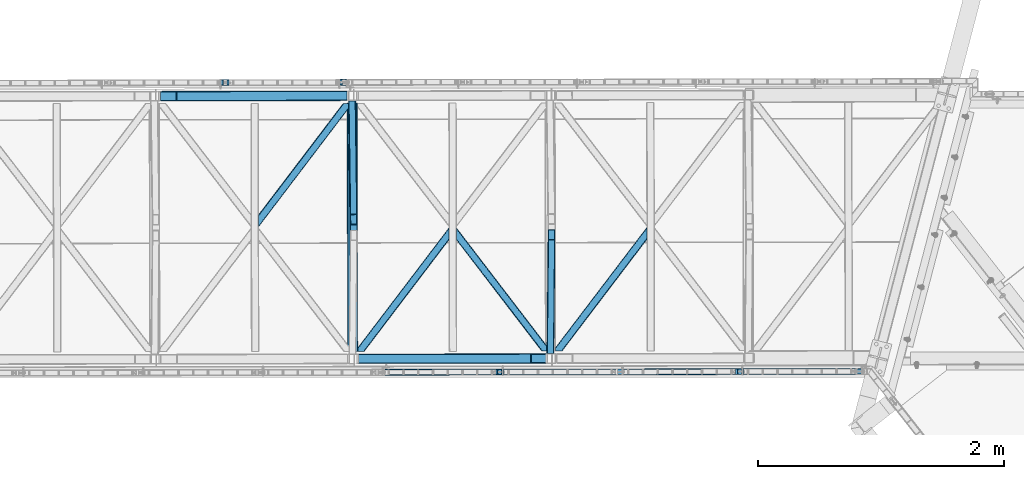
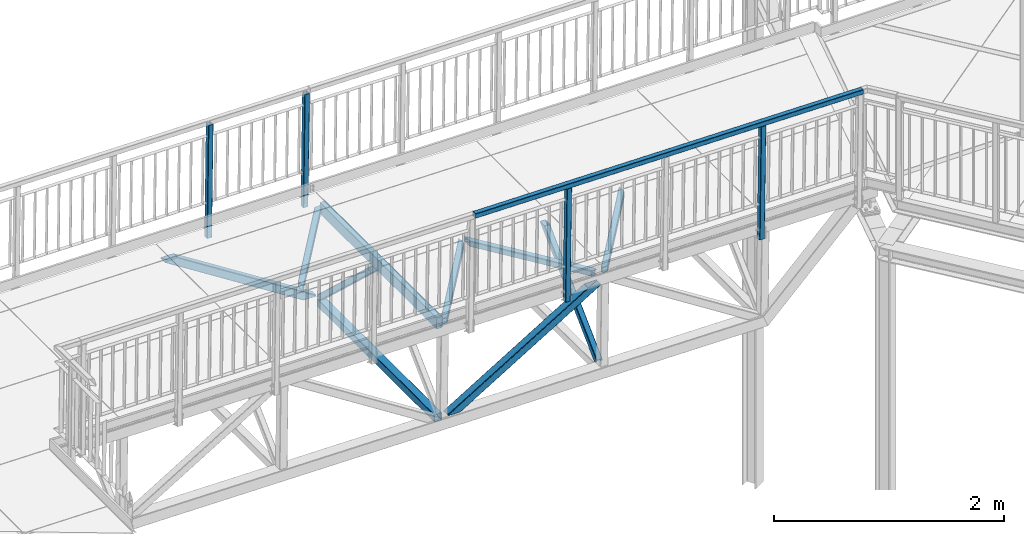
# One storey, part 60 of 169: 15 discrete accessories, 4 elements without a shape of their own.
"""IFC2X3 building model written with IfcOpenShell, lengths in millimetres."""

from ifc_helpers import new_model, si_unit, frame, origin_with_axes, origin_2d_with_axis, place, context, subcontext, project, spatial, rectangle, hollow_rectangle, extrude, boolean, clip, halfspace, material, type_object, element, aggregate, save


model = new_model("IFC2X3")

# Units and contexts
model_context = context("Model", 3, precision=1e-05, world=origin_with_axes())
body_context = subcontext(model_context, "Body", "Model", "MODEL_VIEW")
ifc_project = project(units=[si_unit("LENGTHUNIT", "METRE", prefix="MILLI"), si_unit("AREAUNIT", "SQUARE_METRE"), si_unit("VOLUMEUNIT", "CUBIC_METRE"), si_unit("MASSUNIT", "GRAM", prefix="KILO"), si_unit("TIMEUNIT", "SECOND"), si_unit("PLANEANGLEUNIT", "RADIAN"), si_unit("SOLIDANGLEUNIT", "STERADIAN"), si_unit("THERMODYNAMICTEMPERATUREUNIT", "DEGREE_CELSIUS"), si_unit("LUMINOUSINTENSITYUNIT", "LUMEN")], contexts=[model_context])

# Site, building, storey
site_placement = place(None, origin_with_axes())
site = spatial("IfcSite", under=ifc_project, at=site_placement, Name="Undefined", CompositionType="ELEMENT")
building_placement = place(site_placement, origin_with_axes())
building = spatial("IfcBuilding", under=site, at=building_placement, Name="Undefined", CompositionType="ELEMENT")
storey_placement = place(building_placement, origin_with_axes())
storey = spatial("IfcBuildingStorey", under=building, at=storey_placement, Name="Undefined", CompositionType="ELEMENT", Elevation=0.0)

# Assembly, discrete accessories
assembly_1_placement = place(storey_placement, origin_with_axes())
assembly_1 = element("IfcElementAssembly", 1, at=assembly_1_placement, inside=storey, Name="Steel Assembly", AssemblyPlace="NOTDEFINED", PredefinedType="RIGID_FRAME")
ifc_material_1 = material(Name="STEEL/S355")
discrete_accessory_type_1 = type_object("IfcDiscreteAccessoryType", Name="BEAM")
discrete_accessory_1_placement = place(assembly_1_placement, frame((14159.4514257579, 131.419385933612, 12774.1655168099), z_axis=(-0.516782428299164, -0.000963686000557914, 0.856116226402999), x_axis=(0.856114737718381, 0.00159654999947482, 0.516783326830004)))
discrete_accessory_1 = element("IfcDiscreteAccessory", 2, at=discrete_accessory_1_placement, type_object=discrete_accessory_type_1, material=ifc_material_1, Name="BEAM", ObjectType="K80/4", context=body_context, shape_type="CSG", body=[
    boolean("DIFFERENCE", boolean("DIFFERENCE", boolean("DIFFERENCE", boolean("DIFFERENCE", extrude(hollow_rectangle(XDim=80.0, YDim=80.0, WallThickness=4.0, InnerFilletRadius=4.0, OuterFilletRadius=8.0, at=origin_2d_with_axis()), frame((1895.28365458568, 2.8368149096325e-14, 0.0), z_axis=(-1.0, -3.46944695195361e-18, -1.38777878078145e-17), x_axis=(1.73472347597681e-18, -1.0, 0.0)), (0.0, 0.0, 1.0), 1895.28), extrude(rectangle(XDim=122.0, YDim=122.0, at=origin_2d_with_axis()), frame((3629.06675415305, -2.8717456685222e-06, -1076.88375378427), z_axis=(-0.849477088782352, -3.93457825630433e-11, 0.527625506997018), x_axis=(-0.527625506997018, 2.00772915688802e-10, -0.849477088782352)), (0.0, 0.0, 1.0), 4082.0)), extrude(rectangle(XDim=82.0, YDim=82.0, at=origin_2d_with_axis()), frame((2974.2784408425, -3.47822028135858e-07, 1737.18165073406), z_axis=(-0.527625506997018, 2.00772915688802e-10, -0.849477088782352), x_axis=(1.73472347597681e-18, -1.0, 0.0)), (0.0, 0.0, 1.0), 4090.0)), extrude(rectangle(XDim=82.0, YDim=82.0, at=origin_2d_with_axis()), frame((1095.8775547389, -6.81045717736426e-07, 1764.36290780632), z_axis=(-0.527625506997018, 2.00772915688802e-10, -0.849477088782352), x_axis=(1.73472347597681e-18, -1.0, 0.0)), (0.0, 0.0, 1.0), 4154.0)), extrude(rectangle(XDim=122.0, YDim=122.0, at=origin_2d_with_axis()), frame((1733.78279680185, -2.80958658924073e-06, -1076.88356672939), z_axis=(-0.849477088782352, -3.93457825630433e-11, 0.527625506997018), x_axis=(-0.527625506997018, 2.00772915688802e-10, -0.849477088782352)), (0.0, 0.0, 1.0), 4082.0)),
])
discrete_accessory_2_placement = place(assembly_1_placement, frame((12558.3066592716, 2268.43735667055, 13794.5527999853), z_axis=(0.538381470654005, 0.00100403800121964, 0.842700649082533), x_axis=(0.842699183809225, 0.00157148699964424, -0.538382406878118)))
discrete_accessory_2 = element("IfcDiscreteAccessory", 3, at=discrete_accessory_2_placement, type_object=discrete_accessory_type_1, material=ifc_material_1, Name="BEAM", ObjectType="K80/4", context=body_context, shape_type="CSG", body=[
    boolean("DIFFERENCE", boolean("DIFFERENCE", boolean("DIFFERENCE", boolean("DIFFERENCE", extrude(hollow_rectangle(XDim=80.0, YDim=80.0, WallThickness=4.0, InnerFilletRadius=4.0, OuterFilletRadius=8.0, at=origin_2d_with_axis()), frame((1895.28365458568, 2.8368149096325e-14, 0.0), z_axis=(-1.0, -3.46944695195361e-18, -1.38777878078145e-17), x_axis=(1.73472347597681e-18, -1.0, 0.0)), (0.0, 0.0, 1.0), 1895.28), extrude(rectangle(XDim=122.0, YDim=122.0, at=origin_2d_with_axis()), frame((1733.7826800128, -0.000115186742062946, 1076.8837541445), z_axis=(-0.849477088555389, 2.61340201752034e-10, -0.527625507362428), x_axis=(-0.527625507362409, 4.58604519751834e-10, 0.849477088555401)), (0.0, 0.0, 1.0), 4082.0)), extrude(rectangle(XDim=82.0, YDim=82.0, at=origin_2d_with_axis()), frame((-1087.43611182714, 3.77681572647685e-07, 1750.77218633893), z_axis=(0.527625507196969, -3.47074672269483e-10, -0.849477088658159), x_axis=(1.73472347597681e-18, -1.0, 0.0)), (0.0, 0.0, 1.0), 4122.0)), extrude(rectangle(XDim=82.0, YDim=82.0, at=origin_2d_with_axis()), frame((807.847426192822, 1.91307743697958e-07, 1750.77237320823), z_axis=(0.527625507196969, -3.47074672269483e-10, -0.849477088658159), x_axis=(1.73472347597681e-18, -1.0, 0.0)), (0.0, 0.0, 1.0), 4122.0)), extrude(rectangle(XDim=122.0, YDim=122.0, at=origin_2d_with_axis()), frame((3629.23882569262, -3.99359470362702e-06, 1076.99089160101), z_axis=(-0.849477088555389, 2.61340201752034e-10, -0.527625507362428), x_axis=(0.527625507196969, -3.47074672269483e-10, -0.849477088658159)), (0.0, 0.0, 1.0), 4082.41)),
])
aggregate(assembly_1, [discrete_accessory_1, discrete_accessory_2])

assembly_2_placement = place(storey_placement, origin_with_axes())
assembly_2 = element("IfcElementAssembly", 4, at=assembly_2_placement, inside=storey, Name="Steel Assembly", AssemblyPlace="NOTDEFINED", PredefinedType="RIGID_FRAME")
discrete_accessory_3_placement = place(assembly_2_placement, frame((15782.0316942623, 134.445406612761, 13753.6165102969), z_axis=(0.796064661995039, -0.605127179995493, -0.0101069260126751), x_axis=(0.605078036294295, 0.796128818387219, -0.00771197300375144)))
discrete_accessory_3 = element("IfcDiscreteAccessory", 5, at=discrete_accessory_3_placement, type_object=discrete_accessory_type_1, material=ifc_material_1, Name="BEAM", ObjectType="K60/4", context=body_context, shape_type="CSG", body=[
    boolean("DIFFERENCE", boolean("DIFFERENCE", boolean("DIFFERENCE", extrude(hollow_rectangle(XDim=60.0, YDim=60.0, WallThickness=4.0, InnerFilletRadius=4.0, OuterFilletRadius=8.0, at=origin_2d_with_axis()), frame((1317.88045895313, 1.14307908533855e-15, -1.87685778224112e-12), z_axis=(-1.0, -3.46944695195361e-18, -1.38777878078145e-17), x_axis=(1.73472347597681e-18, -1.0, 0.0)), (0.0, 0.0, 1.0), 1317.88), extrude(rectangle(XDim=122.0, YDim=122.0, at=origin_2d_with_axis()), frame((1232.02617983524, 0.000108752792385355, 1614.64314702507), z_axis=(-0.606610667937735, 2.83045446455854e-10, -0.794999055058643), x_axis=(1.73472347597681e-18, -1.0, 0.0)), (0.0, 0.0, 1.0), 4062.0)), extrude(rectangle(XDim=62.0, YDim=122.0, at=origin_2d_with_axis()), frame((1638.49296551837, -1.93246750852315e-06, -1250.22451956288), z_axis=(-0.794999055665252, -4.2238609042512e-08, 0.606610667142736), x_axis=(0.606610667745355, -4.65838344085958e-10, 0.794999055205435)), (0.0, 0.0, 1.0), 4122.0)), halfspace(frame((513.848229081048, 1.26783561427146e-08, 582.760696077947), z_axis=(-0.606610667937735, 2.83045446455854e-10, -0.794999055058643), x_axis=(1.73472347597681e-18, -1.0, 0.0)), True)),
])
discrete_accessory_4_placement = place(assembly_2_placement, frame((14975.1307134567, 1187.9424899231, 13763.8505600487), z_axis=(-0.793802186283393, -0.608092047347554, 0.0101069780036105), x_axis=(0.608043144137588, -0.793866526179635, -0.00771190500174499)))
discrete_accessory_4 = element("IfcDiscreteAccessory", 6, at=discrete_accessory_4_placement, type_object=discrete_accessory_type_1, material=ifc_material_1, Name="BEAM", ObjectType="K60/4", context=body_context, shape_type="CSG", body=[
    boolean("DIFFERENCE", boolean("DIFFERENCE", boolean("DIFFERENCE", extrude(hollow_rectangle(XDim=60.0, YDim=60.0, WallThickness=4.0, InnerFilletRadius=4.0, OuterFilletRadius=8.0, at=origin_2d_with_axis()), frame((1327.04560324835, -1.81783837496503e-12, 1.8913063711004e-12), z_axis=(-1.0, -3.46944695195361e-18, -1.38777878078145e-17), x_axis=(1.73472347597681e-18, -1.0, 0.0)), (0.0, 0.0, 1.0), 1317.77), extrude(rectangle(XDim=122.0, YDim=122.0, at=origin_2d_with_axis()), frame((2559.07206009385, 0.000108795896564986, -1614.6431455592), z_axis=(-0.606610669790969, 1.9093520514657e-10, 0.794999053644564), x_axis=(1.73472347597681e-18, -1.0, 0.0)), (0.0, 0.0, 1.0), 4062.0)), extrude(rectangle(XDim=62.0, YDim=122.0, at=origin_2d_with_axis()), frame((-311.447359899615, 7.92361939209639e-07, -1250.22452235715), z_axis=(0.794999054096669, -5.08714775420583e-10, 0.606610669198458), x_axis=(0.606610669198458, -3.85695368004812e-10, -0.79499905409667)), (0.0, 0.0, 1.0), 4122.0)), halfspace(frame((813.19737539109, -1.17615854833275e-08, 582.760697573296), z_axis=(0.606610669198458, -3.85695368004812e-10, -0.79499905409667), x_axis=(0.0, 1.0, 0.0)), True)),
])
discrete_accessory_5_placement = place(assembly_2_placement, frame((14172.1645658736, 131.443242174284, 13774.0847013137), z_axis=(0.796064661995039, -0.605127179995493, -0.0101069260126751), x_axis=(0.605078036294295, 0.796128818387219, -0.00771197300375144)))
discrete_accessory_5 = element("IfcDiscreteAccessory", 7, at=discrete_accessory_5_placement, type_object=discrete_accessory_type_1, material=ifc_material_1, Name="BEAM", ObjectType="K60/4", context=body_context, shape_type="CSG", body=[
    boolean("DIFFERENCE", boolean("DIFFERENCE", boolean("DIFFERENCE", extrude(hollow_rectangle(XDim=60.0, YDim=60.0, WallThickness=4.0, InnerFilletRadius=4.0, OuterFilletRadius=8.0, at=origin_2d_with_axis()), frame((1317.88045895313, 1.14307908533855e-15, -1.87685778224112e-12), z_axis=(-1.0, -3.46944695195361e-18, -1.38777878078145e-17), x_axis=(1.73472347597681e-18, -1.0, 0.0)), (0.0, 0.0, 1.0), 1317.88), extrude(rectangle(XDim=122.0, YDim=122.0, at=origin_2d_with_axis()), frame((1232.02617983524, 0.000108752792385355, 1614.64314702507), z_axis=(-0.606610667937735, 2.83045446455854e-10, -0.794999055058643), x_axis=(1.73472347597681e-18, -1.0, 0.0)), (0.0, 0.0, 1.0), 4062.0)), extrude(rectangle(XDim=62.0, YDim=122.0, at=origin_2d_with_axis()), frame((1638.49296551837, -1.93246750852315e-06, -1250.22451956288), z_axis=(-0.794999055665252, -4.2238609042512e-08, 0.606610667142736), x_axis=(0.606610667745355, -4.65838344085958e-10, 0.794999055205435)), (0.0, 0.0, 1.0), 4122.0)), halfspace(frame((513.848229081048, 1.26783561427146e-08, 582.760696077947), z_axis=(-0.606610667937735, 2.83045446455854e-10, -0.794999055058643), x_axis=(1.73472347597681e-18, -1.0, 0.0)), True)),
])
discrete_accessory_6_placement = place(assembly_2_placement, frame((13365.2076395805, 1214.94027332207, 13784.3187498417), z_axis=(0.796064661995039, -0.605127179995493, -0.0101069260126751), x_axis=(0.605078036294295, 0.796128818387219, -0.00771197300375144)))
discrete_accessory_6 = element("IfcDiscreteAccessory", 8, at=discrete_accessory_6_placement, type_object=discrete_accessory_type_1, material=ifc_material_1, Name="BEAM", ObjectType="K60/4", context=body_context, shape_type="CSG", body=[
    boolean("DIFFERENCE", boolean("DIFFERENCE", boolean("DIFFERENCE", extrude(hollow_rectangle(XDim=60.0, YDim=60.0, WallThickness=4.0, InnerFilletRadius=4.0, OuterFilletRadius=8.0, at=origin_2d_with_axis()), frame((1327.04560324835, -1.81783837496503e-12, 1.8913063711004e-12), z_axis=(-1.0, -3.46944695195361e-18, -1.38777878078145e-17), x_axis=(1.73472347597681e-18, -1.0, 0.0)), (0.0, 0.0, 1.0), 1317.88), extrude(rectangle(XDim=122.0, YDim=122.0, at=origin_2d_with_axis()), frame((2559.07166903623, 0.000108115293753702, 1614.64301073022), z_axis=(-0.606610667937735, 2.83045446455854e-10, -0.794999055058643), x_axis=(0.0, 1.0, 0.0)), (0.0, 0.0, 1.0), 4062.0)), extrude(rectangle(XDim=62.0, YDim=122.0, at=origin_2d_with_axis()), frame((2965.5386644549, -2.59535426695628e-06, -1250.22459037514), z_axis=(-0.794999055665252, -4.2238609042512e-08, 0.606610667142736), x_axis=(0.606610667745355, -4.65838344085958e-10, 0.794999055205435)), (0.0, 0.0, 1.0), 4122.0)), halfspace(frame((-776.800733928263, -1.5232217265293e-08, 630.460639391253), z_axis=(0.606610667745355, -4.65838344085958e-10, 0.794999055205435), x_axis=(0.0, 1.0, 0.0)), True)),
])
discrete_accessory_7_placement = place(assembly_2_placement, frame((15769.3185546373, 134.421655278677, 12753.6973257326), z_axis=(-0.0105615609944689, 0.682786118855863, -0.730541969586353), x_axis=(0.00731813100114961, 0.730615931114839, 0.682749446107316)))
discrete_accessory_7 = element("IfcDiscreteAccessory", 9, at=discrete_accessory_7_placement, type_object=discrete_accessory_type_1, material=ifc_material_1, Name="BEAM", ObjectType="K60/4", context=body_context, shape_type="CSG", body=[
    boolean("DIFFERENCE", boolean("DIFFERENCE", boolean("DIFFERENCE", boolean("DIFFERENCE", extrude(hollow_rectangle(XDim=60.0, YDim=60.0, WallThickness=4.0, InnerFilletRadius=4.0, OuterFilletRadius=8.0, at=origin_2d_with_axis()), frame((1409.62306429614, 2.44530622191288e-15, -3.48147920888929e-12), z_axis=(-1.0, -3.46944695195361e-18, -1.38777878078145e-17), x_axis=(1.73472347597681e-18, -1.0, 0.0)), (0.0, 0.0, 1.0), 1409.62), extrude(rectangle(XDim=122.0, YDim=122.0, at=origin_2d_with_axis()), frame((-3.0605420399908e-06, 2029.999999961, -0.000155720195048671), z_axis=(1.73472347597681e-18, -1.0, 0.0), x_axis=(-0.682804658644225, 7.91412114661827e-10, 0.730600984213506)), (0.0, 0.0, 1.0), 4060.0)), extrude(rectangle(XDim=82.0, YDim=82.0, at=origin_2d_with_axis()), frame((1491.15653144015, 6.98136768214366e-07, 1393.60423636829), z_axis=(-0.730600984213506, -8.41296776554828e-11, -0.682804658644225), x_axis=(0.0, 1.0, 0.0)), (0.0, 0.0, 1.0), 4082.0)), extrude(rectangle(XDim=82.0, YDim=82.0, at=origin_2d_with_axis()), frame((1393.60423162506, -1.60659598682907e-06, -1491.15668038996), z_axis=(-0.682804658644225, 7.91412114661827e-10, 0.730600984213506), x_axis=(-0.730600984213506, -8.41296776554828e-11, -0.682804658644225)), (0.0, 0.0, 1.0), 4082.0)), halfspace(frame((2154.18041553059, 4.7799403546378e-08, 726.64071778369), z_axis=(-0.682804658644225, 7.91412114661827e-10, 0.730600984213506), x_axis=(1.73472347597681e-18, -1.0, 0.0)), True)),
])
discrete_accessory_8_placement = place(assembly_2_placement, frame((14170.1691768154, 1201.44138166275, 13774.0846550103), z_axis=(-0.00801490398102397, -0.682820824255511, -0.730541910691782), x_axis=(-0.0100430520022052, 0.730583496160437, -0.682749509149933)))
discrete_accessory_8 = element("IfcDiscreteAccessory", 10, at=discrete_accessory_8_placement, type_object=discrete_accessory_type_1, material=ifc_material_1, Name="BEAM", ObjectType="K60/4", context=body_context, shape_type="CSG", body=[
    boolean("DIFFERENCE", boolean("DIFFERENCE", boolean("DIFFERENCE", boolean("DIFFERENCE", extrude(hollow_rectangle(XDim=60.0, YDim=60.0, WallThickness=4.0, InnerFilletRadius=4.0, OuterFilletRadius=8.0, at=origin_2d_with_axis()), frame((1464.54771171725, -2.54058529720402e-15, 1.73769067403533e-12), z_axis=(-1.0, -3.46944695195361e-18, -1.38777878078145e-17), x_axis=(1.73472347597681e-18, -1.0, 0.0)), (0.0, 0.0, 1.0), 1409.7), extrude(rectangle(XDim=122.0, YDim=122.0, at=origin_2d_with_axis()), frame((1464.54763377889, 2029.99999998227, -7.71977473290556e-05), z_axis=(1.73472347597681e-18, -1.0, 0.0), x_axis=(0.682804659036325, -5.74226128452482e-10, 0.730600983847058)), (0.0, 0.0, 1.0), 4060.0)), extrude(rectangle(XDim=82.0, YDim=82.0, at=origin_2d_with_axis()), frame((2955.70431769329, 3.22820304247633e-06, -1393.60430822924), z_axis=(-0.730600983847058, -6.40306815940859e-10, 0.682804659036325), x_axis=(0.0, 1.0, 0.0)), (0.0, 0.0, 1.0), 4082.0)), extrude(rectangle(XDim=82.0, YDim=82.0, at=origin_2d_with_axis()), frame((70.9434023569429, 1.26172341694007e-06, -1491.15660917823), z_axis=(0.682804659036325, -5.74226128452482e-10, 0.730600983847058), x_axis=(-0.730600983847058, -6.40306815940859e-10, 0.682804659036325)), (0.0, 0.0, 1.0), 4082.0)), halfspace(frame((-689.632704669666, -3.43825377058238e-08, 726.640717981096), z_axis=(0.682804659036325, -5.74226128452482e-10, 0.730600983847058), x_axis=(0.0, 1.0, 0.0)), True)),
])
discrete_accessory_9_placement = place(assembly_2_placement, frame((14159.4514262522, 131.419490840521, 12774.1655167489), z_axis=(0.012713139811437, 2.3750999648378e-05, 0.999919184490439), x_axis=(-0.0018648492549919, 0.999998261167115, -4.2996762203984e-08)))
discrete_accessory_9 = element("IfcDiscreteAccessory", 11, at=discrete_accessory_9_placement, type_object=discrete_accessory_type_1, material=ifc_material_1, Name="BEAM", ObjectType="K80/4", context=body_context, shape_type="Clipping", body=[
    clip(clip(extrude(hollow_rectangle(XDim=80.0, YDim=80.0, WallThickness=4.0, InnerFilletRadius=4.0, OuterFilletRadius=8.0, at=origin_2d_with_axis()), frame((2079.99999999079, 5.70364343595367e-14, -1.83064995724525e-18), z_axis=(-1.0, -3.46944695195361e-18, -1.38777878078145e-17), x_axis=(1.73472347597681e-18, -1.0, 0.0)), (0.0, 0.0, 1.0), 2020.0), halfspace(frame((2079.99999986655, -1.53990526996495e-08, 999.999999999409), z_axis=(-1.0, -3.46944695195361e-18, -1.38777878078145e-17), x_axis=(1.73472347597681e-18, -1.0, 0.0)), True)), halfspace(frame((59.9998947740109, 1.52502366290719e-08, 999.99999999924), z_axis=(1.0, 0.0, 0.0), x_axis=(0.0, 1.0, 0.0)), True)),
])
discrete_accessory_10_placement = place(assembly_2_placement, frame((14172.1645658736, 131.443242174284, 13774.0847013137), z_axis=(0.012713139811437, 2.3750999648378e-05, 0.999919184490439), x_axis=(-0.0018648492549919, 0.999998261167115, -4.2996762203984e-08)))
discrete_accessory_10 = element("IfcDiscreteAccessory", 12, at=discrete_accessory_10_placement, type_object=discrete_accessory_type_1, material=ifc_material_1, Name="BEAM", ObjectType="RHS120*60*3", context=body_context, shape_type="Clipping", body=[
    clip(clip(extrude(hollow_rectangle(XDim=60.0, YDim=120.0, WallThickness=3.0, InnerFilletRadius=3.0, OuterFilletRadius=6.0, at=origin_2d_with_axis()), frame((2079.99988425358, -2.58114747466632e-16, -1.81898421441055e-12), z_axis=(-1.0, -3.46944695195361e-18, -1.38777878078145e-17), x_axis=(1.73472347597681e-18, -1.0, 0.0)), (0.0, 0.0, 1.0), 2020.0), halfspace(frame((2079.99984112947, 4.96547727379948e-08, 999.999997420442), z_axis=(-1.0, -3.46944695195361e-18, -1.38777878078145e-17), x_axis=(1.73472347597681e-18, -1.0, 0.0)), True)), halfspace(frame((59.9998947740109, 1.52502366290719e-08, 999.99999999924), z_axis=(1.0, 0.0, 0.0), x_axis=(0.0, 1.0, 0.0)), True)),
])
aggregate(assembly_2, [discrete_accessory_3, discrete_accessory_4, discrete_accessory_5, discrete_accessory_6, discrete_accessory_7, discrete_accessory_8, discrete_accessory_9, discrete_accessory_10])

assembly_3_placement = place(storey_placement, origin_with_axes())
assembly_3 = element("IfcElementAssembly", 13, at=assembly_3_placement, inside=storey, Name="Steel Assembly", AssemblyPlace="NOTDEFINED", PredefinedType="RIGID_FRAME")
ifc_material_2 = material(Name="STEEL/S235")
discrete_accessory_type_2 = type_object("IfcDiscreteAccessoryType", Name="PORĘCZ")
discrete_accessory_11_placement = place(assembly_3_placement, frame((14456.9914694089, 21.9741524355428, 14930.5598281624), z_axis=(-0.0018648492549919, 0.999998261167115, -4.2996762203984e-08), x_axis=(0.9999174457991, 0.00186469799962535, -0.0127131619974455)))
discrete_accessory_11 = element("IfcDiscreteAccessory", 14, at=discrete_accessory_11_placement, type_object=discrete_accessory_type_2, material=ifc_material_2, Name="PORĘCZ", ObjectType="SHS50*3", context=body_context, shape_type="Clipping", body=[
    clip(clip(extrude(hollow_rectangle(XDim=50.0, YDim=50.0, WallThickness=3.0, InnerFilletRadius=3.0, OuterFilletRadius=6.0, at=origin_2d_with_axis()), frame((3859.79401585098, 6.69567529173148e-15, 5.34777968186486e-15), z_axis=(-1.0, -3.46944695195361e-18, -1.38777878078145e-17), x_axis=(1.73472347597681e-18, -1.0, 0.0)), (0.0, 0.0, 1.0), 3894.79), halfspace(frame((3859.79401610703, -8.69476934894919e-10, 1000.00000000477), z_axis=(-1.0, -3.46944695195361e-18, -1.38777878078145e-17), x_axis=(1.73472347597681e-18, -1.0, 0.0)), True)), halfspace(frame((-35.0000007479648, 1.38243194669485e-10, 1000.00000000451), z_axis=(1.0, 0.0, 0.0), x_axis=(0.0, 1.0, 0.0)), True)),
])
discrete_accessory_type_3 = type_object("IfcDiscreteAccessoryType", Name="STANCHION")
discrete_accessory_12_placement = place(assembly_3_placement, frame((17302.770910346, 27.2810626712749, 13794.2890818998), z_axis=(0.00186484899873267, -0.999998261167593, 4.28757666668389e-08), x_axis=(0.012713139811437, 2.3750999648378e-05, 0.999919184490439)))
discrete_accessory_12 = element("IfcDiscreteAccessory", 15, at=discrete_accessory_12_placement, type_object=discrete_accessory_type_3, material=ifc_material_2, Name="STANCHION", ObjectType="SHS50*3", context=body_context, shape_type="Clipping", body=[
    clip(clip(extrude(hollow_rectangle(XDim=50.0, YDim=50.0, WallThickness=3.0, InnerFilletRadius=3.0, OuterFilletRadius=6.0, at=origin_2d_with_axis()), frame((1074.99999999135, -5.68489533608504e-14, -9.13224357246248e-13), z_axis=(-1.0, -3.46944695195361e-18, -1.38777878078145e-17), x_axis=(1.73472347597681e-18, -1.0, 0.0)), (0.0, 0.0, 1.0), 1195.0), halfspace(frame((1075.00000000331, 25.0000002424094, 2.62741739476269e-09), z_axis=(1.0, 0.0, 0.0), x_axis=(0.0, 0.0, 1.0)), False)), halfspace(frame((-120.000000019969, -1025.00000000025, -5.14306819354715e-10), z_axis=(1.0, 0.0, 0.0), x_axis=(0.0, 0.0, 1.0)), True)),
])
discrete_accessory_13_placement = place(assembly_3_placement, frame((15352.9318910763, 23.644901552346, 13819.0797477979), z_axis=(0.00186484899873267, -0.999998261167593, 4.28757666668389e-08), x_axis=(0.012713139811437, 2.3750999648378e-05, 0.999919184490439)))
discrete_accessory_13 = element("IfcDiscreteAccessory", 16, at=discrete_accessory_13_placement, type_object=discrete_accessory_type_3, material=ifc_material_2, Name="STANCHION", ObjectType="SHS50*3", context=body_context, shape_type="Clipping", body=[
    clip(clip(extrude(hollow_rectangle(XDim=50.0, YDim=50.0, WallThickness=3.0, InnerFilletRadius=3.0, OuterFilletRadius=6.0, at=origin_2d_with_axis()), frame((1074.99999999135, -5.68489533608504e-14, -9.13224357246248e-13), z_axis=(-1.0, -3.46944695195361e-18, -1.38777878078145e-17), x_axis=(1.73472347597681e-18, -1.0, 0.0)), (0.0, 0.0, 1.0), 1195.0), halfspace(frame((1075.00000000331, 25.0000002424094, 2.62741739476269e-09), z_axis=(1.0, 0.0, 0.0), x_axis=(0.0, 0.0, 1.0)), False)), halfspace(frame((-120.000000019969, -1025.00000000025, -5.14306819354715e-10), z_axis=(1.0, 0.0, 0.0), x_axis=(0.0, 0.0, 1.0)), True)),
])
aggregate(assembly_3, [discrete_accessory_11, discrete_accessory_12, discrete_accessory_13])

assembly_4_placement = place(storey_placement, origin_with_axes())
assembly_4 = element("IfcElementAssembly", 17, at=assembly_4_placement, inside=storey, Name="Steel Assembly", AssemblyPlace="NOTDEFINED", PredefinedType="RIGID_FRAME")
discrete_accessory_14_placement = place(assembly_4_placement, frame((13118.1791898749, 2379.4815227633, 13847.4368088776), z_axis=(-0.0018648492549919, 0.999998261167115, -4.2996762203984e-08), x_axis=(0.012713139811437, 2.3750999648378e-05, 0.999919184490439)))
discrete_accessory_14 = element("IfcDiscreteAccessory", 18, at=discrete_accessory_14_placement, type_object=discrete_accessory_type_3, material=ifc_material_2, Name="STANCHION", ObjectType="SHS50*3", context=body_context, shape_type="Clipping", body=[
    clip(clip(extrude(hollow_rectangle(XDim=50.0, YDim=50.0, WallThickness=3.0, InnerFilletRadius=3.0, OuterFilletRadius=6.0, at=origin_2d_with_axis()), frame((1074.99999999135, -5.68489533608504e-14, -9.13224357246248e-13), z_axis=(-1.0, -3.46944695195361e-18, -1.38777878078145e-17), x_axis=(1.73472347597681e-18, -1.0, 0.0)), (0.0, 0.0, 1.0), 1195.0), halfspace(frame((1074.99999999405, -25.000000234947, -7.63429852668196e-09), z_axis=(1.0, 0.0, 0.0), x_axis=(0.0, 0.0, 1.0)), False)), halfspace(frame((-120.000000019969, -1025.00000000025, -5.14306819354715e-10), z_axis=(1.0, 0.0, 0.0), x_axis=(0.0, 0.0, 1.0)), True)),
])
discrete_accessory_15_placement = place(assembly_4_placement, frame((14084.7938438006, 2381.28411598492, 13835.1470656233), z_axis=(-0.0018648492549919, 0.999998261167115, -4.2996762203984e-08), x_axis=(0.012713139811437, 2.3750999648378e-05, 0.999919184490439)))
discrete_accessory_15 = element("IfcDiscreteAccessory", 19, at=discrete_accessory_15_placement, type_object=discrete_accessory_type_3, material=ifc_material_2, Name="STANCHION", ObjectType="SHS50*3", context=body_context, shape_type="Clipping", body=[
    clip(clip(extrude(hollow_rectangle(XDim=50.0, YDim=50.0, WallThickness=3.0, InnerFilletRadius=3.0, OuterFilletRadius=6.0, at=origin_2d_with_axis()), frame((1074.99999999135, -5.68489533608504e-14, -9.13224357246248e-13), z_axis=(-1.0, -3.46944695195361e-18, -1.38777878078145e-17), x_axis=(1.73472347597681e-18, -1.0, 0.0)), (0.0, 0.0, 1.0), 1195.0), halfspace(frame((1074.99999999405, -25.000000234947, -7.63429852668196e-09), z_axis=(1.0, 0.0, 0.0), x_axis=(0.0, 0.0, 1.0)), False)), halfspace(frame((-120.000000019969, -1025.00000000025, -5.14306819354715e-10), z_axis=(1.0, 0.0, 0.0), x_axis=(0.0, 0.0, 1.0)), True)),
])
aggregate(assembly_4, [discrete_accessory_14, discrete_accessory_15])

save(model, "model.ifc")
